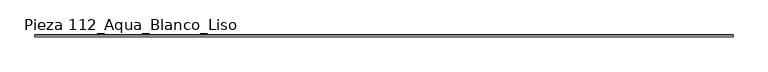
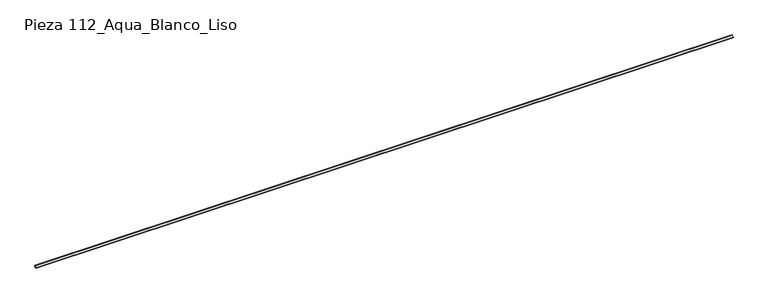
"""IFC4 building model written with IfcOpenShell, lengths in millimetres: slab geometry, ROSA GRES_112 : Pieza 112_Aqua_Blanco_Liso."""

from ifc_helpers import new_model, si_unit, point, frame, frame_2d, origin, place, context, project, spatial, polyline, circle_curve, trimmed, segment, composite_curve, outline, extrude, source, transform, mapped, element, save


def pieza_112_aqua_blanco_liso_57a361b8(model_context):
    return source(origin(), model_context, "Body", "SweptSolid", [
        extrude(outline(composite_curve([segment(polyline([(0.0, 8.7114978), (-8.7114978, 0.0), (-40.0, 0.0), (-40.0, 9.9734114)]), True, "CONTINUOUS"), segment(trimmed(circle_curve(frame_2d((-39.9955547, 39.9955547)), 30.0221435), [point((-40.0, 9.9734114))], [point((-9.9734114, 40.0))], True, "CARTESIAN"), True, "CONTINUOUS"), segment(polyline([(-9.9734114, 40.0), (0.0, 40.0), (0.0, 8.7114978)]), True, "CONTINUOUS")], self_intersect=False)), frame((0.0, 0.0, 0.0), z_axis=(1.0, 0.0, 0.0), x_axis=(0.0, 1.0, 0.0)), (0.0, 0.0, 1.0), 15405.0),
    ])


if __name__ == "__main__":
    model = new_model("IFC4")
    model_context = context("Model", 3, world=origin())
    ifc_project = project(units=[si_unit("LENGTHUNIT", "METRE", prefix="MILLI")], contexts=[model_context])
    site = spatial("IfcSite", under=ifc_project)
    building = spatial("IfcBuilding", under=site)
    placement = place(None, origin())
    pieza_112_aqua_blanco_liso_shape = pieza_112_aqua_blanco_liso_57a361b8(model_context)
    element("IfcSlab", 1, ObjectType="ROSA GRES_112 : Pieza 112_Aqua_Blanco_Liso", at=placement, inside=building, context=model_context, shape_type="MappedRepresentation", body=[
        mapped(pieza_112_aqua_blanco_liso_shape, transform((0.0, 0.0, 0.0), x_axis=(1.0, 0.0, 0.0), y_axis=(0.0, 1.0, 0.0), z_axis=(0.0, 0.0, 1.0))),
    ])
    save(model, "model.ifc")
